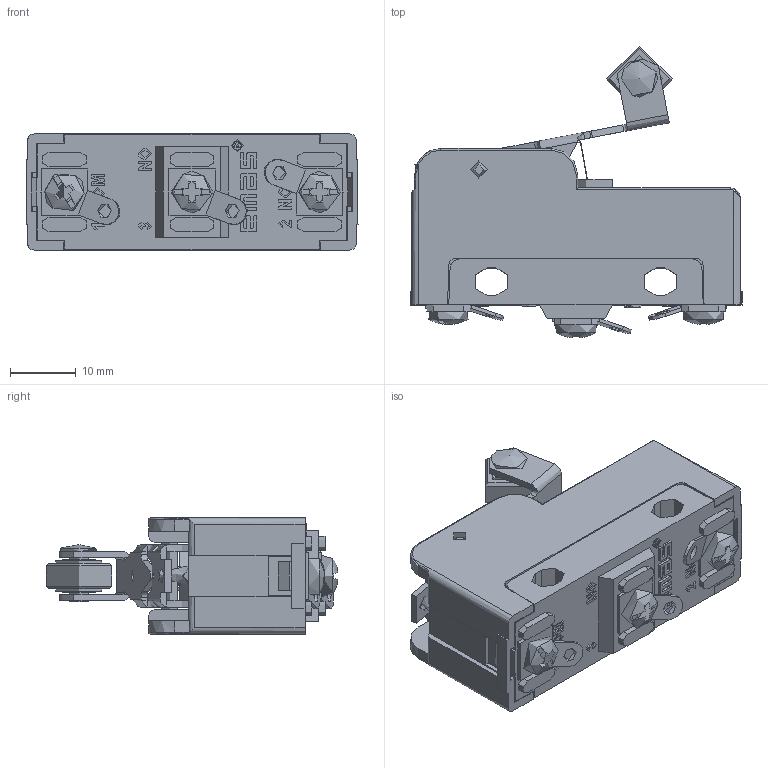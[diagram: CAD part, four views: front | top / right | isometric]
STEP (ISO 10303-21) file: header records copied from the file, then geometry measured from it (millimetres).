
FILE_DESCRIPTION((''),'2; 1');
FILE_NAME('','2026-03-27T16:29:18',(''),(''),'CST STEP Exporter V1.0','Unknown','');
FILE_SCHEMA(('CONFIG_CONTROL_DESIGN'));
Length unit declared in the file: metre
Assembly tree (16 placements, depth 2):
  (unnamed)
    (unnamed)
    (unnamed)
    (unnamed)
    (unnamed)
    (unnamed)
    (unnamed)
    (unnamed)
    (unnamed)
    (unnamed)
    (unnamed)
    (unnamed)
    (unnamed)
    (unnamed)
    (unnamed)
    (unnamed)
    (unnamed)
Bounding box: 50.5 x 44.39 x 17.7 mm (x, y, z)
Topology: 0 solids, 53 shells, 575 faces, 1748 edges, 1203 vertices
Faces by surface type: plane 339, cylinder 158, extrusion 53, cone 10, torus 8, sphere 5, bspline 2
Full cylindrical faces by diameter (mm): 1.2 x1, 1.4 x1, 1.8 x2, 1.9 x1, 2 x1, 2.2 x3, 2.5 x1, 2.6 x3, 3 x2, 3.2 x1, 5 x1, 5.5 x1, 7 x2, 8.2 x1, 10 x1
Entity records: 27312 total; most frequent: CARTESIAN_POINT 6824, ORIENTED_EDGE 3167, DIRECTION 3014, EDGE_CURVE 1765, VERTEX_POINT 1231, VECTOR 1156, LINE 1103, AXIS2_PLACEMENT_3D 929
